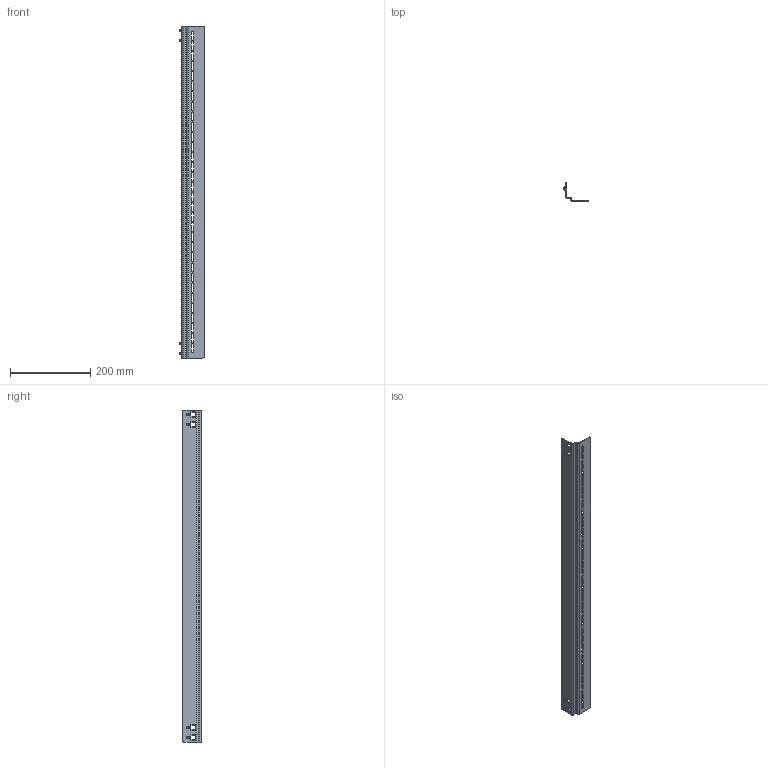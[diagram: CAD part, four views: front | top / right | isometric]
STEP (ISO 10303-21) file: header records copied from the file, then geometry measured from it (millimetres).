
FILE_DESCRIPTION (( 'STEP AP203' ), '1' );
FILE_NAME ('p2rg10.STEP', '2016-10-11T14:04:22', ( '' ), ( '' ), 'SwSTEP 2.0', 'SolidWorks 2014', '' );
FILE_SCHEMA (( 'CONFIG_CONTROL_DESIGN' ));
Length unit declared in the file: millimetre
Products named in the file (2): 89145511; p2rg10
Assembly tree (1 placements, depth 2):
  p2rg10
    89145511
Bounding box: 60.3 x 47 x 825 mm (x, y, z)
Volume: 136805.1 mm3; surface area: 156854.9 mm2
Topology: 1 solids, 1 shells, 322 faces, 872 edges, 552 vertices
Faces by surface type: plane 184, cylinder 106, bspline 32
Entity records: 11376 total; most frequent: CARTESIAN_POINT 3198, ORIENTED_EDGE 1744, DIRECTION 1520, EDGE_CURVE 872, LINE 604, VECTOR 604, VERTEX_POINT 552, AXIS2_PLACEMENT_3D 458
